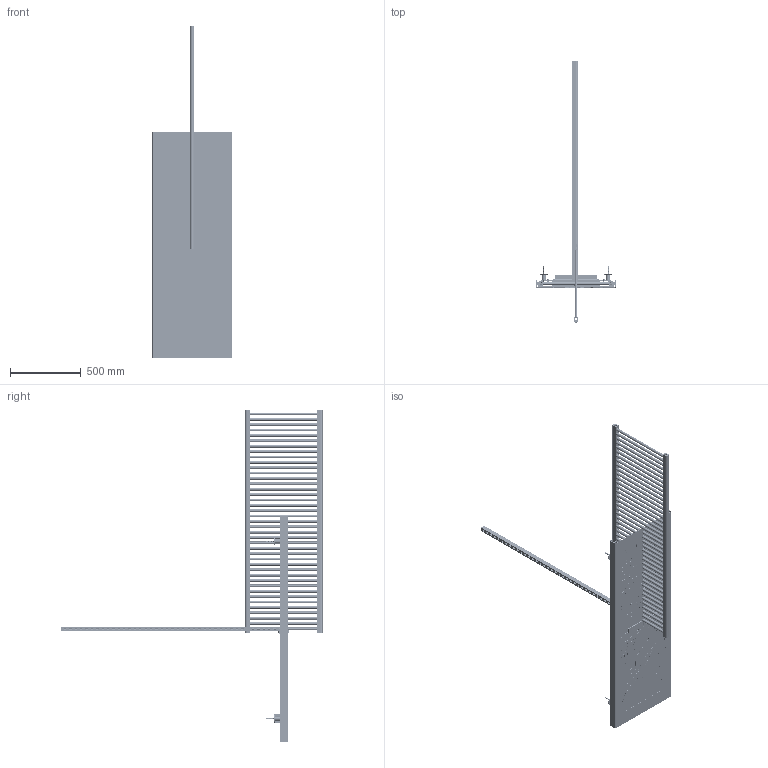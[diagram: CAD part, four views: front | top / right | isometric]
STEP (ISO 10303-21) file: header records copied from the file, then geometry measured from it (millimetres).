
FILE_DESCRIPTION( ( 'Unknown' ), '1' );
FILE_NAME( 'D:/Alplast sp. j/Witryna zespoBu - Projekty/Archiwum/Grzejniki Archiwum/Projekty/DESIGN PROGRAM/ALBERO/ALBERO.stp', 'Unknown', ( 'Unknown' ), ( 'Unknown' ), 'PSStep 10.1', 'Unknown', ' ' );
FILE_SCHEMA( ( 'AUTOMOTIVE_DESIGN { 1 0 10303 214 1 1 1 1 }' ) );
Length unit declared in the file: millimetre
Products named in the file (24): Assem1; AD-WALL; Mocowanie Szerokie L40; Albero blacha kpl; albero p³yta g³ówna; p³askownik 60 1; Wkrêt M4x15; Wkrêt M4x15-oa0; p³askownik 60 2; MOCOWANIE SZEROKIE L40-01; MOCOWANIE FASOLKA; MOCOWANIE TALERZYK; ko³ek rozporowy; wkrêt konsoli; wkrêt ustalaj¹cy; kolektor AD-WALL; mufka; zaslepka_AD; rurka 500; albero szyba wzor 2; element dociskaj¹cy; MOCOWANIE WALL  L40-01; sruba_M6x20; puszka metalowa gr 1mm 20szt
Bounding box: 560 x 1847 x 2348 mm (x, y, z)
Volume: 25448306.5 mm3; surface area: 15316994.3 mm2
Topology: 172 solids, 172 shells, 26342 faces, 77096 edges, 51355 vertices
Faces by surface type: plane 24738, cylinder 1041, cone 465, torus 82, bspline 16
Full cylindrical faces by diameter (mm): 3 x8, 4 x18, 4.5 x6, 4.807 x6, 4.917 x24, 5 x6, 6 x5, 6.5 x4, 6.647 x12, 8 x17, 9 x5, 17.5 x205, 17.6 x83, 18.631 x9, 19 x5, 20 x88, 22 x6, 22.7 x6, 23 x6, 25 x14, 29 x6, 29.2 x6, 30 x6, 60 x6
Entity records: 375601 total; most frequent: CARTESIAN_POINT 61184, ORIENTED_EDGE 59460, DIRECTION 50588, EDGE_CURVE 29730, LINE 29138, VECTOR 29138, VERTEX_POINT 19873, AXIS2_PLACEMENT_3D 10725
